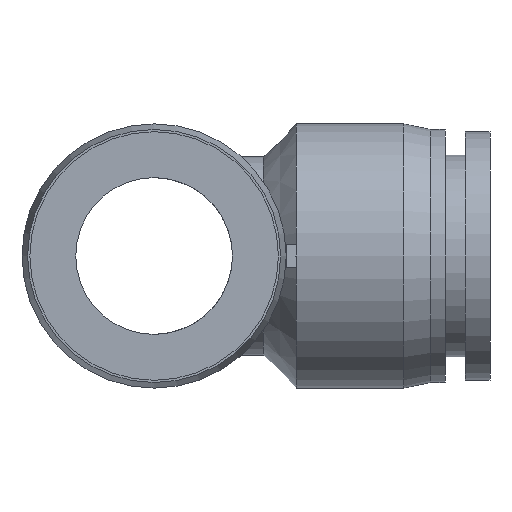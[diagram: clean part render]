
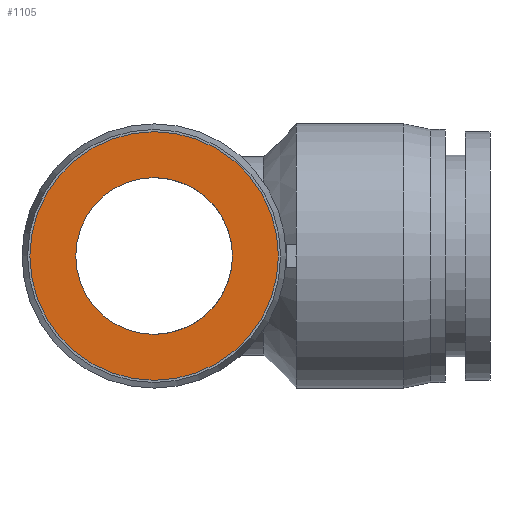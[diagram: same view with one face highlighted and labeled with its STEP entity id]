
A CAD part, left-side view. The second image highlights one B-rep face of the part: STEP entity #1105.
In plain terms, the highlighted planar face has unit normal (-1, 0, 0).
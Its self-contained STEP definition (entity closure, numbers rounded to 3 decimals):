
#707=CARTESIAN_POINT('',(-30.0,-7.0,0.));
#708=VERTEX_POINT('',#707);
#709=CARTESIAN_POINT('',(-30.0,0.0,0.0));
#710=DIRECTION('',(1.0,0.0,0.0));
#711=DIRECTION('',(0.0,1.0,0.0));
#712=AXIS2_PLACEMENT_3D('',#709,#710,#711);
#713=CIRCLE('',#712,7.0);
#714=EDGE_CURVE('',#708,#708,#713,.T.);
#1086=CARTESIAN_POINT('',(-30.0,5.55,0.0));
#1087=DIRECTION('',(-1.0,0.0,0.0));
#1088=DIRECTION('',(0.0,0.0,1.0));
#1089=AXIS2_PLACEMENT_3D('',#1086,#1087,#1088);
#1090=PLANE('',#1089);
#1091=CARTESIAN_POINT('',(-30.0,11.1,0.0));
#1092=VERTEX_POINT('',#1091);
#1093=CARTESIAN_POINT('',(-30.0,0.0,0.0));
#1094=DIRECTION('',(1.0,0.0,0.0));
#1095=DIRECTION('',(0.0,1.0,0.0));
#1096=AXIS2_PLACEMENT_3D('',#1093,#1094,#1095);
#1097=CIRCLE('',#1096,11.1);
#1098=EDGE_CURVE('',#1092,#1092,#1097,.T.);
#1099=ORIENTED_EDGE('',*,*,#1098,.F.);
#1100=EDGE_LOOP('',(#1099));
#1101=FACE_OUTER_BOUND('',#1100,.T.);
#1102=ORIENTED_EDGE('',*,*,#714,.T.);
#1103=EDGE_LOOP('',(#1102));
#1104=FACE_BOUND('',#1103,.T.);
#1105=ADVANCED_FACE('',(#1101,#1104),#1090,.T.);
